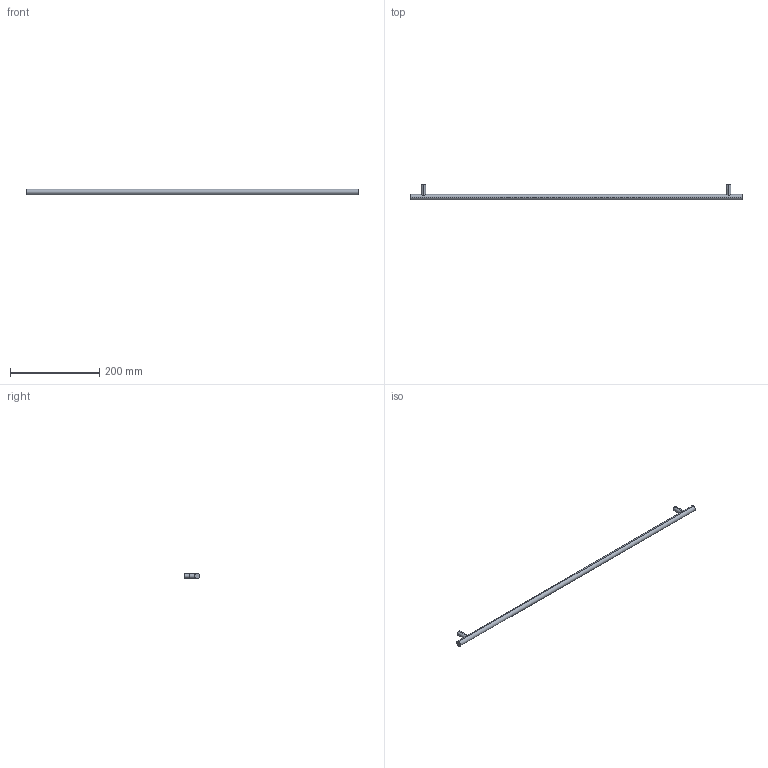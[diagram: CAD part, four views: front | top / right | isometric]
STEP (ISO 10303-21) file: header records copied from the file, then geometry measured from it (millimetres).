
FILE_DESCRIPTION( ( '' ), '1' );
FILE_NAME( 'C:/Documents and Settings/Sachin/Desktop/Sheet 10_1/stp/9069799.stp', '2013-10-22T06:37:29', ( '' ), ( '' ), ' ', ' ', ' ' );
FILE_SCHEMA( ( 'CONFIG_CONTROL_DESIGN' ) );
Length unit declared in the file: millimetre
Products named in the file (1): 1
Bounding box: 744 x 35 x 12 mm (x, y, z)
Volume: 87377.2 mm3; surface area: 30155.1 mm2
Topology: 1 solids, 1 shells, 16 faces, 30 edges, 20 vertices
Faces by surface type: cylinder 10, plane 6
Entity records: 578 total; most frequent: CARTESIAN_POINT 199, DIRECTION 76, ORIENTED_EDGE 60, AXIS2_PLACEMENT_3D 33, EDGE_CURVE 30, EDGE_LOOP 20, VERTEX_POINT 20, ADVANCED_FACE 16
